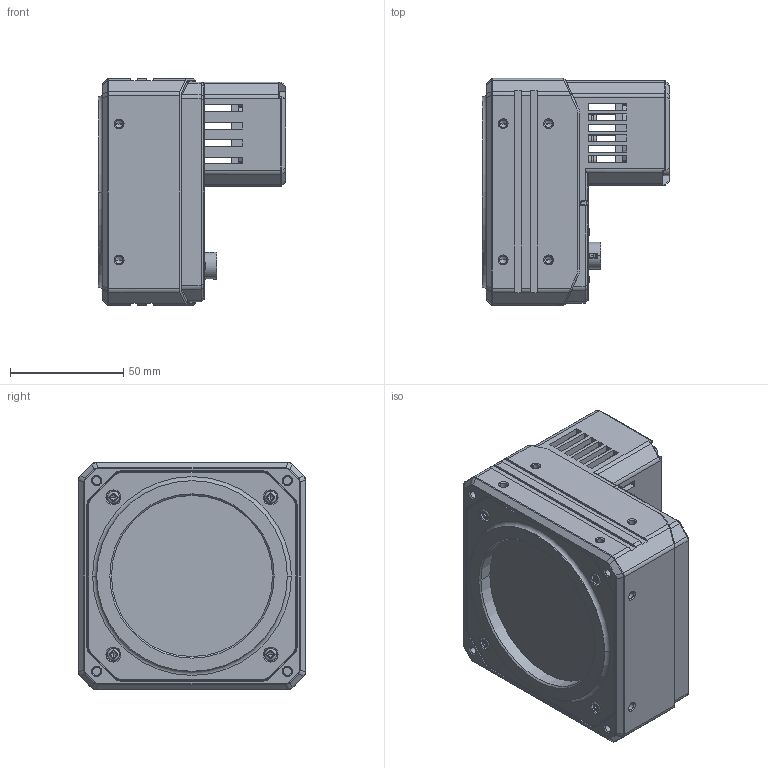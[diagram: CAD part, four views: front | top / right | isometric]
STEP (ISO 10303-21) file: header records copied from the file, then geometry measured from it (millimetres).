
FILE_DESCRIPTION((''),'2;1');
FILE_NAME('PRT0017','2019-07-25T14:22:19',('wangyijun6'),(''),'CREO PARAMETRIC BY PTC INC, 2017260','CREO PARAMETRIC BY PTC INC, 2017260','');
FILE_SCHEMA(('CONFIG_CONTROL_DESIGN'));
Products named in the file (1): PRT0017
Bounding box: 82.82 x 100 x 100 mm (x, y, z)
Volume: 466283.1 mm3; surface area: 76431.5 mm2
Topology: 1 solids, 41 shells, 2432 faces, 6275 edges, 3885 vertices
Faces by surface type: plane 1113, cylinder 717, cone 307, torus 137, bspline 115, extrusion 39, sphere 4
Entity records: 83504 total; most frequent: CARTESIAN_POINT 24666, ORIENTED_EDGE 12410, DIRECTION 12122, EDGE_CURVE 6205, AXIS2_PLACEMENT_3D 4311, VERTEX_POINT 3885, VECTOR 3500, LINE 3461
